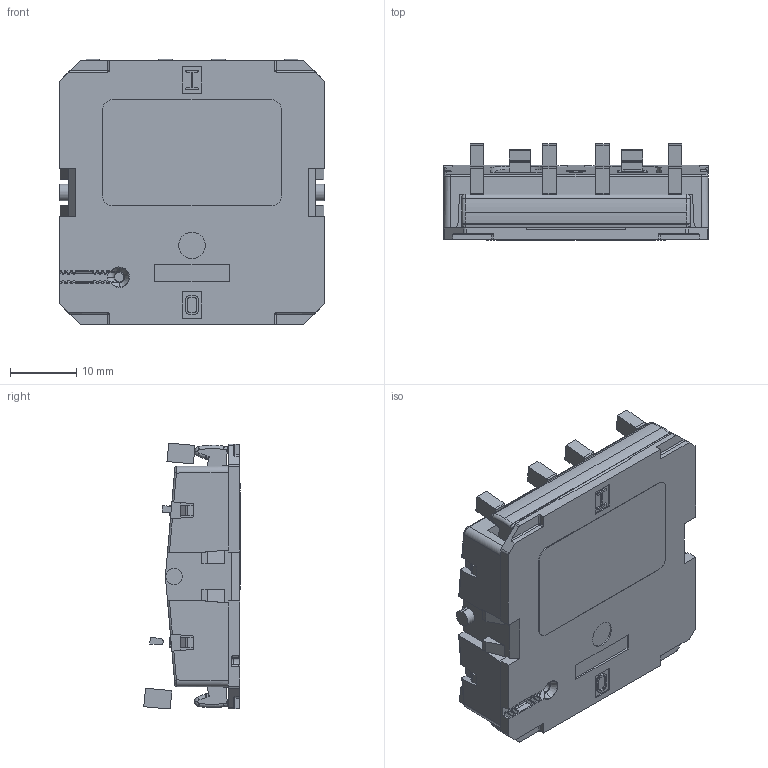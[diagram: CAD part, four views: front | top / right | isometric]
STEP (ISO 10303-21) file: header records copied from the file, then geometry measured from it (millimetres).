
FILE_DESCRIPTION (( 'STEP AP203' ), '1' );
FILE_NAME ('EinbauanweisungPTM210-Wippe_gedrückt_14-04-2020.STEP', '2020-04-20T18:51:27', ( '' ), ( '' ), 'SwSTEP 2.0', 'SolidWorks 2014', '' );
FILE_SCHEMA (( 'CONFIG_CONTROL_DESIGN' ));
Length unit declared in the file: millimetre
Products named in the file (3): PTM210_2_Block; EinbauanweisungPTM210-Wippe_gedrückt_14-04-2020; Wippe_Einbauanweisung
Assembly tree (2 placements, depth 2):
  EinbauanweisungPTM210-Wippe_gedrückt_14-04-2020
    PTM210_2_Block
    Wippe_Einbauanweisung
Bounding box: 40 x 14.57 x 40.18 mm (x, y, z)
Volume: 13965.3 mm3; surface area: 8917.1 mm2
Topology: 14 solids, 14 shells, 1177 faces, 3116 edges, 1982 vertices
Faces by surface type: plane 608, cylinder 418, bspline 75, torus 37, cone 23, sphere 16
Entity records: 39341 total; most frequent: CARTESIAN_POINT 11004, ORIENTED_EDGE 6200, DIRECTION 5365, EDGE_CURVE 3100, LINE 1997, VECTOR 1997, VERTEX_POINT 1982, AXIS2_PLACEMENT_3D 1684
